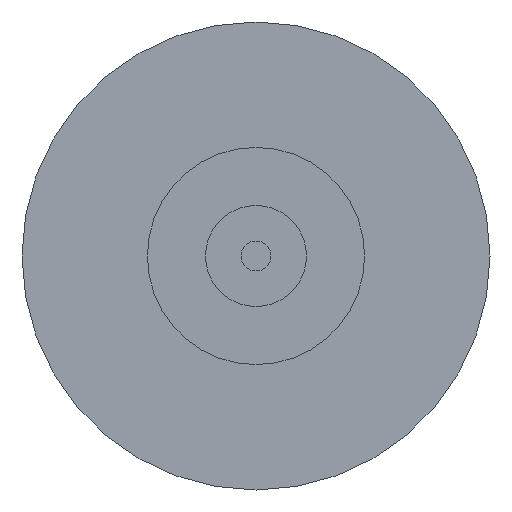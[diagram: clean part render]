
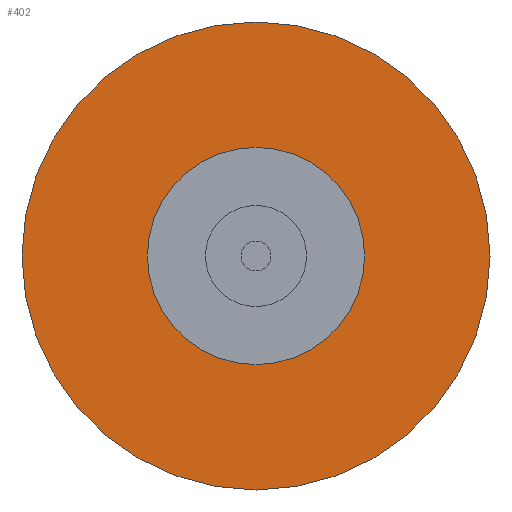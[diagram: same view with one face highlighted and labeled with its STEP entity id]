
A CAD part, left-side view. The second image highlights one B-rep face of the part: STEP entity #402.
In plain terms, the highlighted planar face has unit normal (-1, 0, 0).
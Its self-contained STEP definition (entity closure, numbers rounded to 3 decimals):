
#85=CARTESIAN_POINT('',(-18.5,0.,0.));
#86=DIRECTION('',(-1.,0.,0.));
#87=DIRECTION('',(0.,0.,-1.));
#88=AXIS2_PLACEMENT_3D('',#85,#86,#87);
#90=CARTESIAN_POINT('',(-18.5,0.,0.));
#91=DIRECTION('',(1.,0.,0.));
#92=DIRECTION('',(0.,0.,-1.));
#93=AXIS2_PLACEMENT_3D('',#90,#91,#92);
#95=CARTESIAN_POINT('',(-18.5,0.,0.));
#96=DIRECTION('',(1.,0.,0.));
#97=DIRECTION('',(0.,0.,-1.));
#98=AXIS2_PLACEMENT_3D('',#95,#96,#97);
#108=CARTESIAN_POINT('',(-18.5,0.,0.));
#109=DIRECTION('',(-1.,0.,0.));
#110=DIRECTION('',(0.,0.,-1.));
#111=AXIS2_PLACEMENT_3D('',#108,#109,#110);
#206=CARTESIAN_POINT('',(-18.5,0.,-62.5));
#208=VERTEX_POINT('',#206);
#209=CARTESIAN_POINT('',(-18.5,0.,-29.));
#211=VERTEX_POINT('',#209);
#226=CARTESIAN_POINT('',(-18.5,0.,62.5));
#228=VERTEX_POINT('',#226);
#229=CARTESIAN_POINT('',(-18.5,0.,29.));
#231=VERTEX_POINT('',#229);
#387=CARTESIAN_POINT('',(-18.5,0.,0.));
#388=DIRECTION('',(1.,0.,0.));
#389=DIRECTION('',(0.,0.,1.));
#390=AXIS2_PLACEMENT_3D('',#387,#388,#389);
#391=PLANE('',#390);
#392=ORIENTED_EDGE('',*,*,#380,.F.);
#393=ORIENTED_EDGE('',*,*,#369,.T.);
#394=EDGE_LOOP('',(#392,#393));
#395=FACE_OUTER_BOUND('',#394,.F.);
#397=ORIENTED_EDGE('',*,*,#396,.F.);
#399=ORIENTED_EDGE('',*,*,#398,.T.);
#400=EDGE_LOOP('',(#397,#399));
#401=FACE_BOUND('',#400,.F.);
#402=ADVANCED_FACE('',(#395,#401),#391,.F.);
#89=CIRCLE('',#88,62.5);
#94=CIRCLE('',#93,62.5);
#99=CIRCLE('',#98,29.);
#112=CIRCLE('',#111,29.);
#369=EDGE_CURVE('',#208,#228,#94,.T.);
#380=EDGE_CURVE('',#208,#228,#89,.T.);
#396=EDGE_CURVE('',#211,#231,#99,.T.);
#398=EDGE_CURVE('',#211,#231,#112,.T.);
